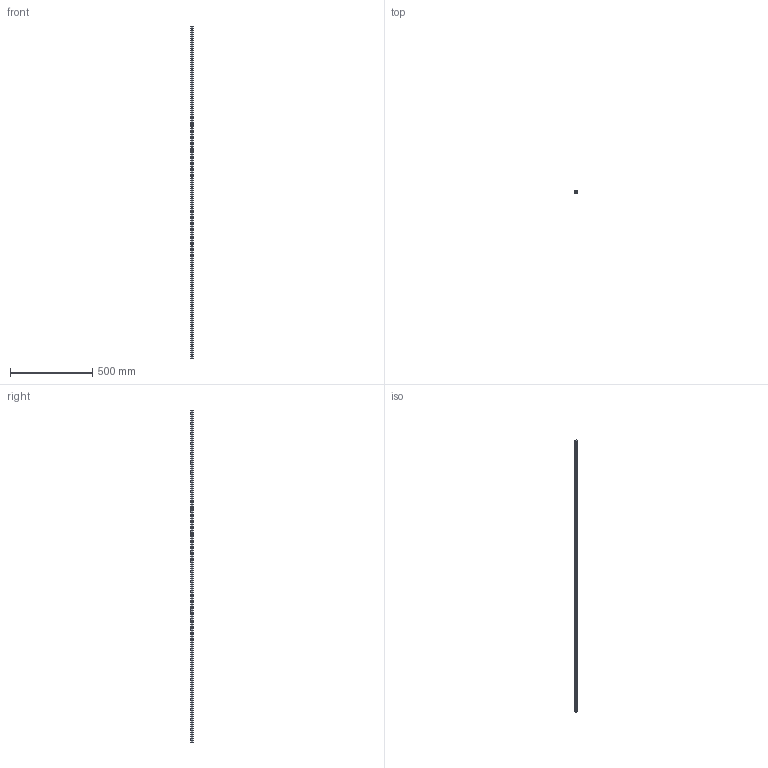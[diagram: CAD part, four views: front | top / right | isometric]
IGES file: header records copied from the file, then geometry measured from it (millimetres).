
Start section: SolidWorks IGES file using analytic representation for surfaces
Global section: file name: C:\Users\IanO\Desktop\L1016_v2\L1016.BL15_v2\L1016.BL15_v2_20190611_IGES\L1016.BL15-2020.igs; native system: SolidWorks 2017; preprocessor: SolidWorks 2017; author: IanO; date: 190612.123045; units: millimetre
Bounding box: 15 x 13 x 2020 mm (x, y, z)
Surface area: 123501.7 mm2 (no closed solid volume)
Topology: 0 solids, 0 shells, 196 faces, 5048 edges, 5048 vertices
Faces by surface type: revolution 140, bspline 56
